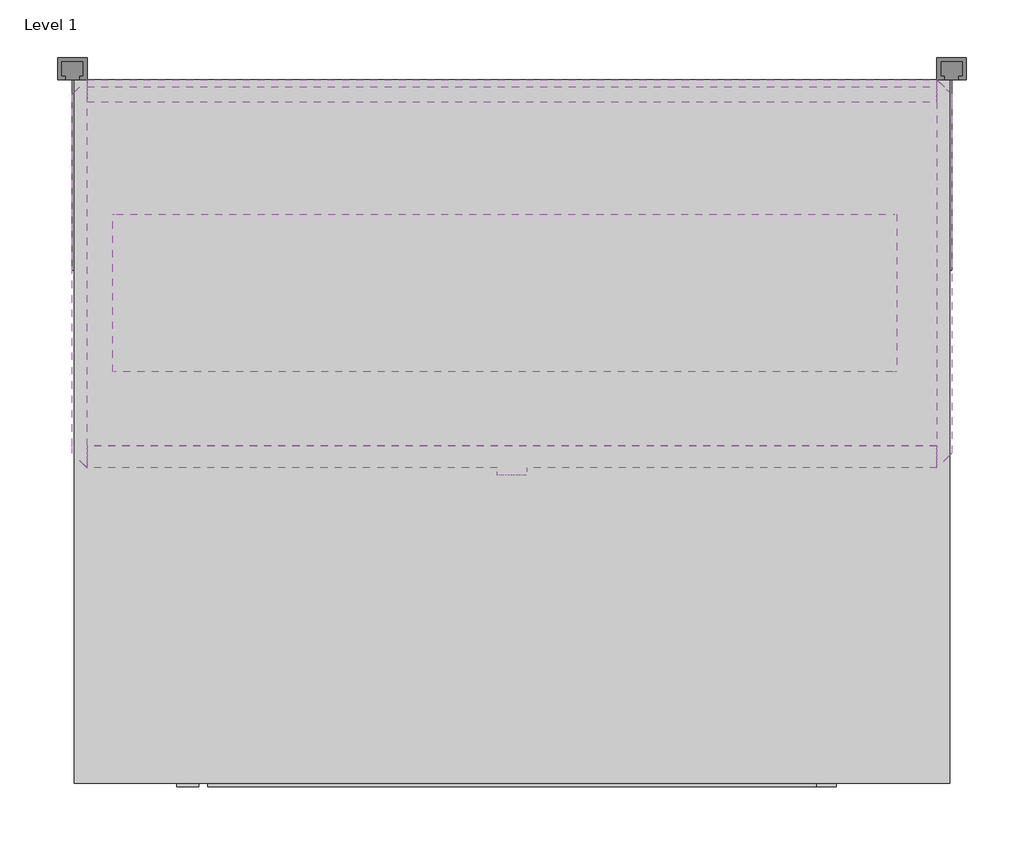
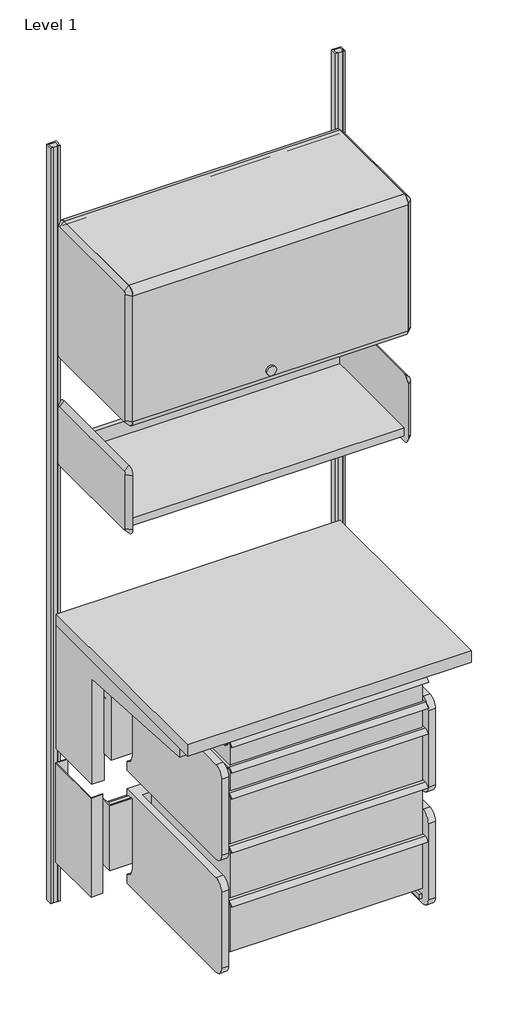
# One storey: 15 furniture elements, 1 light fixture.
"""IFC4 building model written with IfcOpenShell, lengths in millimetres."""

from ifc_helpers import new_model, si_unit, origin, place, context, project, spatial, transform, mapped, element, save
from components import furniture_30ac351e, furniture_75021c9e, furniture_56be9a9d, furniture_236c058c, furniture_f997a199, furniture_a8f42cb3, furniture_48dc0a6c, furniture_10db817a, furniture_84h_ea425779, a_3_959e08d9, a_3_3943aac6, b_6_f3207868, b_6_2be62e06, b_6_bdab6ed6, light_fixture_30w_for_action_office_7d6e6015

model = new_model("IFC4")

# Units and contexts
model_context = context("Model", 3, world=origin())
ifc_project = project(units=[si_unit("LENGTHUNIT", "METRE", prefix="MILLI")], contexts=[model_context])

# Site, building, storey
site = spatial("IfcSite", under=ifc_project)
building = spatial("IfcBuilding", under=site)
storey = spatial("IfcBuildingStorey", under=building, Name="Level 1", Elevation=0.0)

# Furniture
placement = place(None, origin())
furniture_shape = furniture_30ac351e(model_context)
element("IfcFurniture", 1, ObjectType="HermanMiller_CoStruc_CO205_CFrame : 10H x 17D x 22W", at=placement, inside=storey, context=model_context, shape_type="MappedRepresentation", body=[
    mapped(furniture_shape, transform((281.3124951, -274.7713997, 0.0), x_axis=(1.0, 0.0, 0.0), y_axis=(0.0, 1.0, 0.0), z_axis=(0.0, 0.0, 1.0))),
])
furniture_2_shape = furniture_75021c9e(model_context)
element("IfcFurniture", 2, ObjectType="HermanMiller_CoStruc_C2192_CFrameSupport : 11H x 24D x 30W", at=placement, inside=storey, context=model_context, shape_type="MappedRepresentation", body=[
    mapped(furniture_2_shape, transform((381.0, 107.15625, 0.0), x_axis=(1.0, 0.0, 0.0), y_axis=(0.0, 1.0, 0.0), z_axis=(0.0, 0.0, 1.0))),
])
furniture_3_shape = furniture_56be9a9d(model_context)
element("IfcFurniture", 3, ObjectType="HermanMiller_CoStruc_CO205_CFrame : 10H x 17D x 22W", at=placement, inside=storey, context=model_context, shape_type="MappedRepresentation", body=[
    mapped(furniture_3_shape, transform((281.3124951, -274.7713997, 0.0), x_axis=(1.0, 0.0, 0.0), y_axis=(0.0, 1.0, 0.0), z_axis=(0.0, 0.0, 1.0))),
])
furniture_4_shape = furniture_236c058c(model_context)
element("IfcFurniture", 4, ObjectType="HermanMiller_CoStruc_C2141_Heavy-DutyWorkSurface : 24D x 30W Lam", at=placement, inside=storey, context=model_context, shape_type="MappedRepresentation", body=[
    mapped(furniture_4_shape, transform((304.8, -196.85, 0.0), x_axis=(1.0, 0.0, 0.0), y_axis=(0.0, 1.0, 0.0), z_axis=(0.0, 0.0, 1.0))),
])
furniture_5_shape = furniture_f997a199(model_context)
element("IfcFurniture", 5, ObjectType="HermanMiller_CoStruc_C2140W_WorkSurfaceSupport_ComponentAdaptor : 14H x 24D x 30W", at=placement, inside=storey, context=model_context, shape_type="MappedRepresentation", body=[
    mapped(furniture_5_shape, transform((381.0, -196.85, 0.0), x_axis=(1.0, 0.0, 0.0), y_axis=(0.0, 1.0, 0.0), z_axis=(0.0, 0.0, 1.0))),
])
furniture_6_shape = furniture_a8f42cb3(model_context)
element("IfcFurniture", 6, ObjectType="HermanMiller_ActionOffice_A3220_B-StyleStorageDisplay : Shelf 13D x 30W", at=placement, inside=storey, context=model_context, shape_type="MappedRepresentation", body=[
    mapped(furniture_6_shape, transform((504.9420045, -200.025, 0.0), x_axis=(1.0, 0.0, 0.0), y_axis=(0.0, 1.0, 0.0), z_axis=(0.0, 0.0, 1.0))),
])
furniture_7_shape = furniture_48dc0a6c(model_context)
element("IfcFurniture", 7, ObjectType="HermanMiller_ActionOffice_B-StyleFlipperDoor : Paint 15-1/2H x 13D x 30W", at=placement, inside=storey, context=model_context, shape_type="MappedRepresentation", body=[
    mapped(furniture_7_shape, transform((381.0, -200.025, 457.2), x_axis=(1.0, 0.0, 0.0), y_axis=(0.0, 1.0, 0.0), z_axis=(0.0, 0.0, 1.0))),
])
furniture_8_shape = furniture_10db817a(model_context)
element("IfcFurniture", 8, ObjectType="HermanMiller_CoStruc_B-StyleShelf : 15-1/2H x 13D x 30W", at=placement, inside=storey, context=model_context, shape_type="MappedRepresentation", body=[
    mapped(furniture_8_shape, transform((504.9420045, -200.025, 457.2), x_axis=(1.0, 0.0, 0.0), y_axis=(0.0, 1.0, 0.0), z_axis=(0.0, 0.0, 1.0))),
])
furniture_84h_shape = furniture_84h_ea425779(model_context)
element("IfcFurniture", 9, ObjectType="HermanMiller_ActionOffice_AO213_WallStrip : 84H", at=placement, inside=storey, context=model_context, shape_type="MappedRepresentation", body=[
    mapped(furniture_84h_shape, transform((762.0, 0.0, 0.0), x_axis=(1.0, 0.0, 0.0), y_axis=(0.0, 1.0, 0.0), z_axis=(0.0, 0.0, 1.0))),
])
element("IfcFurniture", 10, ObjectType="HermanMiller_ActionOffice_AO213_WallStrip : 84H", at=placement, inside=storey, context=model_context, shape_type="MappedRepresentation", body=[
    mapped(furniture_84h_shape, transform((0.0, 0.0, 0.0), x_axis=(1.0, 0.0, 0.0), y_axis=(0.0, 1.0, 0.0), z_axis=(0.0, 0.0, 1.0))),
])
a_3_shape = a_3_959e08d9(model_context)
element("IfcFurniture", 11, ObjectType="HermanMiller_CoStruc_CO207_Drawer : A - 3", at=placement, inside=storey, context=model_context, shape_type="MappedRepresentation", body=[
    mapped(a_3_shape, transform((380.9326517, -436.5879, 0.0), x_axis=(1.0, 0.0, 0.0), y_axis=(0.0, 1.0, 0.0), z_axis=(0.0, 0.0, 1.0))),
])
a_3_2_shape = a_3_3943aac6(model_context)
element("IfcFurniture", 12, ObjectType="HermanMiller_CoStruc_CO207_Drawer : A - 3", at=placement, inside=storey, context=model_context, shape_type="MappedRepresentation", body=[
    mapped(a_3_2_shape, transform((380.9326517, -436.5879, 0.0), x_axis=(1.0, 0.0, 0.0), y_axis=(0.0, 1.0, 0.0), z_axis=(0.0, 0.0, 1.0))),
])
b_6_shape = b_6_f3207868(model_context)
element("IfcFurniture", 13, ObjectType="HermanMiller_CoStruc_CO207_Drawer : B - 6", at=placement, inside=storey, context=model_context, shape_type="MappedRepresentation", body=[
    mapped(b_6_shape, transform((380.9326517, -436.5879, 0.0), x_axis=(1.0, 0.0, 0.0), y_axis=(0.0, 1.0, 0.0), z_axis=(0.0, 0.0, 1.0))),
])
b_6_2_shape = b_6_2be62e06(model_context)
element("IfcFurniture", 14, ObjectType="HermanMiller_CoStruc_CO207_Drawer : B - 6", at=placement, inside=storey, context=model_context, shape_type="MappedRepresentation", body=[
    mapped(b_6_2_shape, transform((380.9326517, -436.5879, 0.0), x_axis=(1.0, 0.0, 0.0), y_axis=(0.0, 1.0, 0.0), z_axis=(0.0, 0.0, 1.0))),
])
b_6_3_shape = b_6_bdab6ed6(model_context)
element("IfcFurniture", 15, ObjectType="HermanMiller_CoStruc_CO207_Drawer : B - 6", at=placement, inside=storey, context=model_context, shape_type="MappedRepresentation", body=[
    mapped(b_6_3_shape, transform((380.9326517, -436.5879, 0.0), x_axis=(1.0, 0.0, 0.0), y_axis=(0.0, 1.0, 0.0), z_axis=(0.0, 0.0, 1.0))),
])

# Light fixture
light_fixture_30w_for_action_office_shape = light_fixture_30w_for_action_office_7d6e6015(model_context)
element("IfcLightFixture", 16, ObjectType="HermanMiller_SupplementalProducts_G6170_EUnderShelfLEDTaskLight : 30W for Action Office", at=placement, inside=storey, context=model_context, shape_type="MappedRepresentation", body=[
    mapped(light_fixture_30w_for_action_office_shape, transform((374.65, -203.9620114, 0.0), x_axis=(1.0, 0.0, 0.0), y_axis=(0.0, 1.0, 0.0), z_axis=(0.0, 0.0, 1.0))),
])

save(model, "model.ifc")
